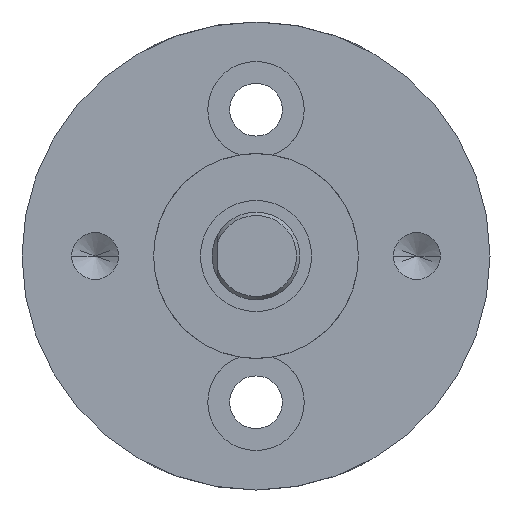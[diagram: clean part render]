
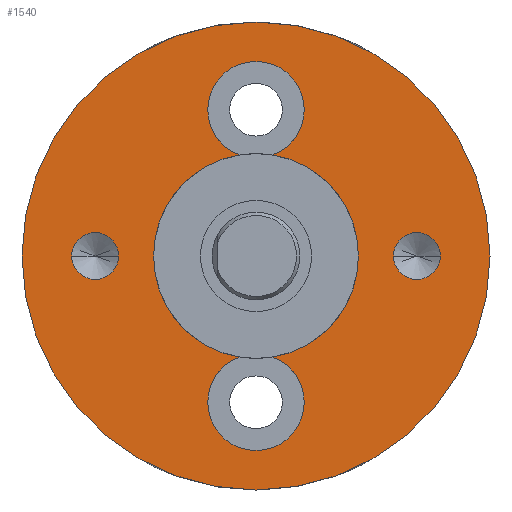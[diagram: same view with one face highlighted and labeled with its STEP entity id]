
A CAD part, left-side view. The second image highlights one B-rep face of the part: STEP entity #1540.
In plain terms, the highlighted planar face has unit normal (-1, 0, 0).
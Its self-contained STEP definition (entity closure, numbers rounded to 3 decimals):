
#101=CARTESIAN_POINT('',(0.,0.,0.));
#102=DIRECTION('',(1.,0.,0.));
#103=DIRECTION('',(0.,1.,0.));
#104=AXIS2_PLACEMENT_3D('',#101,#102,#103);
#109=CARTESIAN_POINT('',(0.,0.,0.));
#110=DIRECTION('',(-1.,0.,0.));
#111=DIRECTION('',(0.,1.,0.));
#112=AXIS2_PLACEMENT_3D('',#109,#110,#111);
#117=CARTESIAN_POINT('',(0.,0.,5.));
#118=DIRECTION('',(-1.,0.,0.));
#119=DIRECTION('',(0.,-1.,0.));
#120=AXIS2_PLACEMENT_3D('',#117,#118,#119);
#125=CARTESIAN_POINT('',(0.,0.,5.));
#126=DIRECTION('',(-1.,0.,0.));
#127=DIRECTION('',(0.,1.,0.));
#128=AXIS2_PLACEMENT_3D('',#125,#126,#127);
#133=CARTESIAN_POINT('',(0.,0.,-5.));
#134=DIRECTION('',(-1.,0.,0.));
#135=DIRECTION('',(0.,0.347,0.938));
#136=AXIS2_PLACEMENT_3D('',#133,#134,#135);
#141=CARTESIAN_POINT('',(0.,0.,-5.));
#142=DIRECTION('',(-1.,0.,0.));
#143=DIRECTION('',(0.,1.,0.));
#144=AXIS2_PLACEMENT_3D('',#141,#142,#143);
#149=CARTESIAN_POINT('',(0.,0.,-5.));
#150=DIRECTION('',(-1.,0.,0.));
#151=DIRECTION('',(0.,-1.,0.));
#152=AXIS2_PLACEMENT_3D('',#149,#150,#151);
#157=CARTESIAN_POINT('',(0.,0.,5.));
#158=DIRECTION('',(-1.,0.,0.));
#159=DIRECTION('',(0.,-0.347,-0.938));
#160=AXIS2_PLACEMENT_3D('',#157,#158,#159);
#165=CARTESIAN_POINT('',(0.,5.5,0.));
#166=DIRECTION('',(-1.,0.,0.));
#167=DIRECTION('',(0.,1.,0.));
#168=AXIS2_PLACEMENT_3D('',#165,#166,#167);
#173=CARTESIAN_POINT('',(0.,5.5,0.));
#174=DIRECTION('',(-1.,0.,0.));
#175=DIRECTION('',(0.,-1.,0.));
#176=AXIS2_PLACEMENT_3D('',#173,#174,#175);
#181=CARTESIAN_POINT('',(0.,-5.5,0.));
#182=DIRECTION('',(-1.,0.,0.));
#183=DIRECTION('',(0.,-1.,0.));
#184=AXIS2_PLACEMENT_3D('',#181,#182,#183);
#189=CARTESIAN_POINT('',(0.,-5.5,0.));
#190=DIRECTION('',(-1.,0.,0.));
#191=DIRECTION('',(0.,1.,0.));
#192=AXIS2_PLACEMENT_3D('',#189,#190,#191);
#433=CARTESIAN_POINT('',(0.,0.,0.));
#434=DIRECTION('',(-1.,0.,0.));
#435=DIRECTION('',(0.,1.,0.));
#436=AXIS2_PLACEMENT_3D('',#433,#434,#435);
#455=CARTESIAN_POINT('',(0.,0.,0.));
#456=DIRECTION('',(-1.,0.,0.));
#457=DIRECTION('',(0.,-0.164,-0.987));
#458=AXIS2_PLACEMENT_3D('',#455,#456,#457);
#471=CARTESIAN_POINT('',(0.,0.,0.));
#472=DIRECTION('',(1.,0.,0.));
#473=DIRECTION('',(0.,-0.164,0.987));
#474=AXIS2_PLACEMENT_3D('',#471,#472,#473);
#479=CARTESIAN_POINT('',(0.,0.,0.));
#480=DIRECTION('',(1.,0.,0.));
#481=DIRECTION('',(0.,1.,0.));
#482=AXIS2_PLACEMENT_3D('',#479,#480,#481);
#1286=CARTESIAN_POINT('',(0.,8.,0.));
#1288=VERTEX_POINT('',#1286);
#1290=CARTESIAN_POINT('',(0.,-8.,0.));
#1292=VERTEX_POINT('',#1290);
#1305=CARTESIAN_POINT('',(0.,1.65,-5.));
#1306=CARTESIAN_POINT('',(0.,-1.65,-5.));
#1307=VERTEX_POINT('',#1305);
#1308=VERTEX_POINT('',#1306);
#1309=CARTESIAN_POINT('',(0.,-0.573,-3.453));
#1310=VERTEX_POINT('',#1309);
#1319=CARTESIAN_POINT('',(0.,-1.65,5.));
#1320=CARTESIAN_POINT('',(0.,1.65,5.));
#1321=VERTEX_POINT('',#1319);
#1322=VERTEX_POINT('',#1320);
#1323=CARTESIAN_POINT('',(0.,0.573,3.453));
#1324=VERTEX_POINT('',#1323);
#1331=CARTESIAN_POINT('',(0.,6.3,0.));
#1332=CARTESIAN_POINT('',(0.,4.7,0.));
#1333=VERTEX_POINT('',#1331);
#1334=VERTEX_POINT('',#1332);
#1341=CARTESIAN_POINT('',(0.,-6.3,0.));
#1342=CARTESIAN_POINT('',(0.,-4.7,0.));
#1343=VERTEX_POINT('',#1341);
#1344=VERTEX_POINT('',#1342);
#1349=CARTESIAN_POINT('',(0.,3.5,0.));
#1351=VERTEX_POINT('',#1349);
#1357=CARTESIAN_POINT('',(0.,-3.5,0.));
#1359=VERTEX_POINT('',#1357);
#1369=CARTESIAN_POINT('',(0.,0.573,-3.453));
#1370=VERTEX_POINT('',#1369);
#1371=CARTESIAN_POINT('',(0.,-0.573,3.453));
#1372=VERTEX_POINT('',#1371);
#1497=CARTESIAN_POINT('',(0.,0.,0.));
#1498=DIRECTION('',(1.,0.,0.));
#1499=DIRECTION('',(0.,-1.,0.));
#1500=AXIS2_PLACEMENT_3D('',#1497,#1498,#1499);
#1501=PLANE('',#1500);
#1502=ORIENTED_EDGE('',*,*,#1478,.T.);
#1503=ORIENTED_EDGE('',*,*,#1489,.F.);
#1504=EDGE_LOOP('',(#1502,#1503));
#1505=FACE_OUTER_BOUND('',#1504,.F.);
#1507=ORIENTED_EDGE('',*,*,#1506,.T.);
#1509=ORIENTED_EDGE('',*,*,#1508,.T.);
#1511=ORIENTED_EDGE('',*,*,#1510,.F.);
#1513=ORIENTED_EDGE('',*,*,#1512,.T.);
#1515=ORIENTED_EDGE('',*,*,#1514,.T.);
#1517=ORIENTED_EDGE('',*,*,#1516,.T.);
#1519=ORIENTED_EDGE('',*,*,#1518,.T.);
#1521=ORIENTED_EDGE('',*,*,#1520,.T.);
#1523=ORIENTED_EDGE('',*,*,#1522,.F.);
#1525=ORIENTED_EDGE('',*,*,#1524,.T.);
#1526=EDGE_LOOP('',(#1507,#1509,#1511,#1513,#1515,#1517,#1519,#1521,#1523,
#1525));
#1527=FACE_BOUND('',#1526,.F.);
#1529=ORIENTED_EDGE('',*,*,#1528,.T.);
#1531=ORIENTED_EDGE('',*,*,#1530,.T.);
#1532=EDGE_LOOP('',(#1529,#1531));
#1533=FACE_BOUND('',#1532,.F.);
#1535=ORIENTED_EDGE('',*,*,#1534,.T.);
#1537=ORIENTED_EDGE('',*,*,#1536,.T.);
#1538=EDGE_LOOP('',(#1535,#1537));
#1539=FACE_BOUND('',#1538,.F.);
#1540=ADVANCED_FACE('',(#1505,#1527,#1533,#1539),#1501,.F.);
#105=CIRCLE('',#104,8.);
#113=CIRCLE('',#112,8.);
#121=CIRCLE('',#120,1.65);
#129=CIRCLE('',#128,1.65);
#137=CIRCLE('',#136,1.65);
#145=CIRCLE('',#144,1.65);
#153=CIRCLE('',#152,1.65);
#161=CIRCLE('',#160,1.65);
#169=CIRCLE('',#168,0.8);
#177=CIRCLE('',#176,0.8);
#185=CIRCLE('',#184,0.8);
#193=CIRCLE('',#192,0.8);
#437=CIRCLE('',#436,3.5);
#459=CIRCLE('',#458,3.5);
#475=CIRCLE('',#474,3.5);
#483=CIRCLE('',#482,3.5);
#1478=EDGE_CURVE('',#1288,#1292,#105,.T.);
#1489=EDGE_CURVE('',#1288,#1292,#113,.T.);
#1506=EDGE_CURVE('',#1321,#1322,#121,.T.);
#1508=EDGE_CURVE('',#1322,#1324,#129,.T.);
#1510=EDGE_CURVE('',#1351,#1324,#483,.T.);
#1512=EDGE_CURVE('',#1351,#1370,#437,.T.);
#1514=EDGE_CURVE('',#1370,#1307,#137,.T.);
#1516=EDGE_CURVE('',#1307,#1308,#145,.T.);
#1518=EDGE_CURVE('',#1308,#1310,#153,.T.);
#1520=EDGE_CURVE('',#1310,#1359,#459,.T.);
#1522=EDGE_CURVE('',#1372,#1359,#475,.T.);
#1524=EDGE_CURVE('',#1372,#1321,#161,.T.);
#1528=EDGE_CURVE('',#1333,#1334,#169,.T.);
#1530=EDGE_CURVE('',#1334,#1333,#177,.T.);
#1534=EDGE_CURVE('',#1343,#1344,#185,.T.);
#1536=EDGE_CURVE('',#1344,#1343,#193,.T.);
